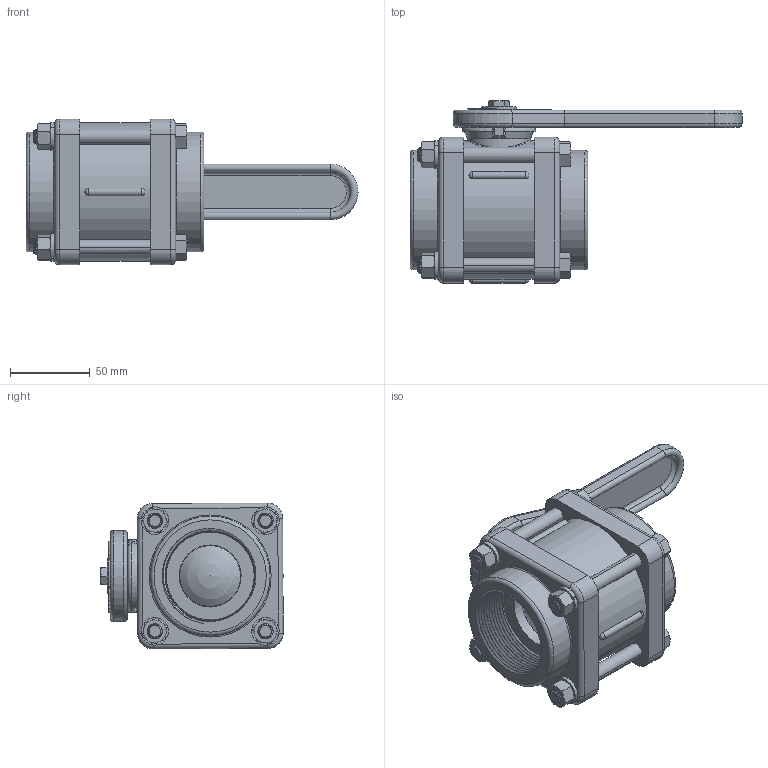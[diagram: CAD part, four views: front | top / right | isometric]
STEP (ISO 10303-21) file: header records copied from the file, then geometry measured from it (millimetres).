
FILE_DESCRIPTION(/* description */ ('Alibre Inc.'),/* implementation_level */ '2;1');
FILE_NAME(/* name */ 'export0',/* time_stamp */ '2016-09-08T10:56:46-04:00',/* author */ (''),/* organization */ (''),/* preprocessor_version */ 'ST-DEVELOPER v14',/* originating_system */ 'Alibre',/* authorisation */ '');
FILE_SCHEMA (('CONFIG_CONTROL_DESIGN'));
Length unit declared in the file: inch
Products named in the file (14): ID_1; ID_2; ID_3; ID_4; ID_5; ID_6; ID_7; ID_8; ID_9; ID_10; ID_11; ID_12
Bounding box: 208.03 x 114.44 x 91.42 mm (x, y, z)
Volume: 550840.7 mm3; surface area: 179376.5 mm2
Topology: 25 solids, 25 shells, 1161 faces, 3007 edges, 1965 vertices
Faces by surface type: cylinder 434, plane 385, cone 177, bspline 113, torus 41, sphere 11
Full cylindrical faces by diameter (mm): 4.978 x1, 9.652 x8, 17.78 x1, 23.622 x3, 31.496 x2, 37.084 x1, 38.1 x2, 38.862 x2, 39.624 x1, 45.72 x4, 66.548 x1, 71.374 x2, 74.93 x2, 75.692 x2, 80.416 x2, 81.026 x2, 86.868 x1, 87.63 x2
Entity records: 48825 total; most frequent: CARTESIAN_POINT 33628, ORIENTED_EDGE 3100, DIRECTION 2200, EDGE_CURVE 1550, VERTEX_POINT 1037, AXIS2_PLACEMENT_3D 873, FACE_BOUND 725, EDGE_LOOP 723
